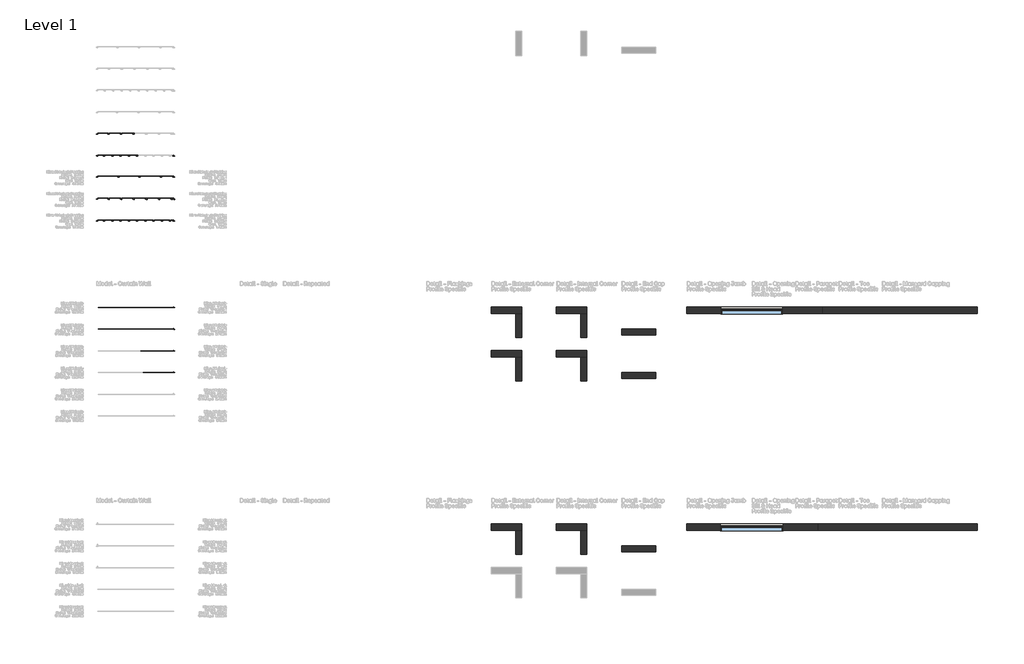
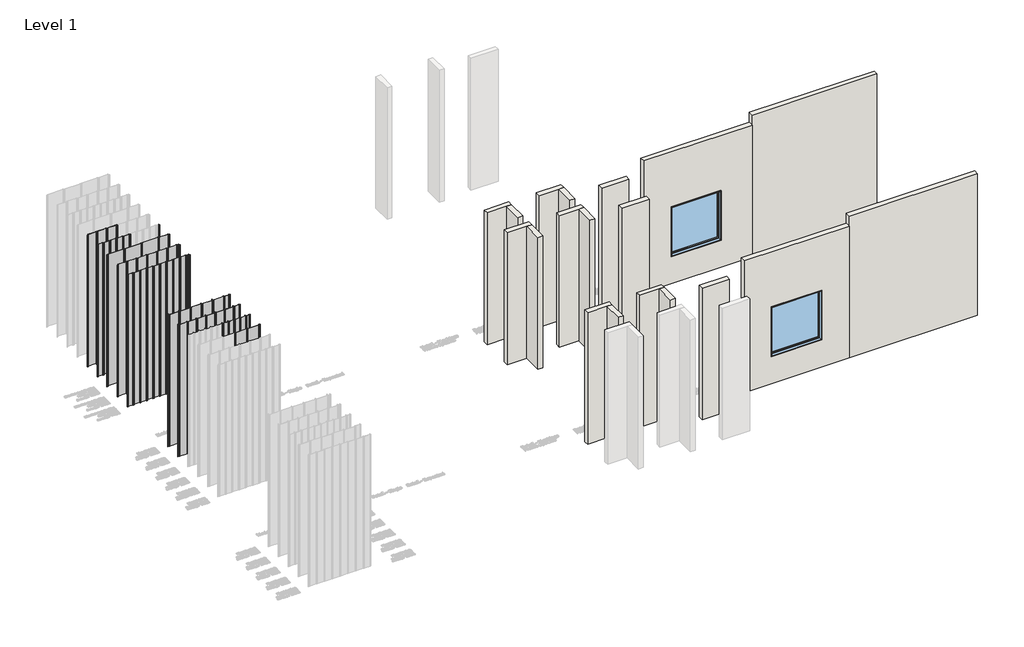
# One storey, part 2 of 64: 60 members, 49 plates, 19 walls, 2 windows.
"""IFC4 building model written with IfcOpenShell, lengths in millimetres."""

from ifc_helpers import new_model, si_unit, frame, origin, origin_with_axes, place, context, project, spatial, polyline, outline, extrude, faceted_brep, transform, mapped, element, save
from components import rectangular_mullion_1e4a568e, rectangular_mullion_1fceed1b, rectangular_mullion_15a9ede3, rectangular_mullion_3a94c3c1, rectangular_mullion_80ef18e3, rectangular_mullion_6b2adc9d, rectangular_mullion_0b61018c, system_panel_13f24f5d, system_panel_f94834bd, system_panel_f6456e46, system_panel_5c20f522, system_panel_9c6cef96, system_panel_82cc9cf0, system_panel_a97800d8, system_panel_c4768e52, system_panel_fcbe450f, system_panel_b35336ca, system_panel_c2a29967, system_panel_6cd964a3, system_panel_60fa6abd, system_panel_c1fad650, system_panel_f792b1a7, system_panel_48c66af6, system_panel_be85d933, fixed_1l_aus_1515_89e3e0c6, fixed_1l_aus_1516_2310d1c3

model = new_model("IFC4")

# Units and contexts
model_context = context("Model", 3, world=origin())
ifc_project = project(units=[si_unit("LENGTHUNIT", "METRE", prefix="MILLI")], contexts=[model_context])

# Site, building, storey
site = spatial("IfcSite", under=ifc_project)
building = spatial("IfcBuilding", under=site)
storey = spatial("IfcBuildingStorey", under=building, Name="Level 1", Elevation=0.0)

# Members
placement = place(None, origin())
rectangular_mullion_shape = rectangular_mullion_1e4a568e(model_context)
element("IfcMember", 1, ObjectType="Rectangular Mullion : Stratco_Hiland_Tray Nailstrip_25mm Rib_Intermediate", at=placement, inside=storey, context=model_context, shape_type="MappedRepresentation", body=[
    mapped(rectangular_mullion_shape, transform((1068.06804, -3510.2964283, 0.0), x_axis=(1.0, 0.0, 0.0), y_axis=(0.0, -1.0, 0.0), z_axis=(0.0, 0.0, -1.0))),
])
element("IfcMember", 2, ObjectType="Rectangular Mullion : Stratco_Hiland_Tray Nailstrip_25mm Rib_Intermediate", at=placement, inside=storey, context=model_context, shape_type="MappedRepresentation", body=[
    mapped(rectangular_mullion_shape, transform((1418.06804, -3510.2964283, 0.0), x_axis=(1.0, 0.0, 0.0), y_axis=(0.0, -1.0, 0.0), z_axis=(0.0, 0.0, -1.0))),
])
element("IfcMember", 3, ObjectType="Rectangular Mullion : Stratco_Hiland_Tray Nailstrip_25mm Rib_Intermediate", at=placement, inside=storey, context=model_context, shape_type="MappedRepresentation", body=[
    mapped(rectangular_mullion_shape, transform((1768.06804, -3510.2964283, 0.0), x_axis=(1.0, 0.0, 0.0), y_axis=(0.0, -1.0, 0.0), z_axis=(0.0, 0.0, -1.0))),
])
rectangular_mullion_2_shape = rectangular_mullion_1fceed1b(model_context)
element("IfcMember", 4, ObjectType="Rectangular Mullion : Stratco_Hiland_Tray Nailstrip_25mm Rib_Underlap Tray", at=placement, inside=storey, context=model_context, shape_type="MappedRepresentation", body=[
    mapped(rectangular_mullion_2_shape, transform((1800.0, -3510.2964283, 0.0), x_axis=(1.0, 0.0, 0.0), y_axis=(0.0, -1.0, 0.0), z_axis=(0.0, 0.0, -1.0))),
])
rectangular_mullion_3_shape = rectangular_mullion_15a9ede3(model_context)
element("IfcMember", 5, ObjectType="Rectangular Mullion : Stratco_Hiland_Tray Nailstrip_38mm Rib_Intermediate", at=placement, inside=storey, context=model_context, shape_type="MappedRepresentation", body=[
    mapped(rectangular_mullion_3_shape, transform((1008.06804, -3010.2964283, 0.0), x_axis=(1.0, 0.0, 0.0), y_axis=(0.0, -1.0, 0.0), z_axis=(0.0, 0.0, -1.0))),
])
element("IfcMember", 6, ObjectType="Rectangular Mullion : Stratco_Hiland_Tray Nailstrip_38mm Rib_Intermediate", at=placement, inside=storey, context=model_context, shape_type="MappedRepresentation", body=[
    mapped(rectangular_mullion_3_shape, transform((1173.06804, -3010.2964283, 0.0), x_axis=(1.0, 0.0, 0.0), y_axis=(0.0, -1.0, 0.0), z_axis=(0.0, 0.0, -1.0))),
])
element("IfcMember", 7, ObjectType="Rectangular Mullion : Stratco_Hiland_Tray Nailstrip_38mm Rib_Intermediate", at=placement, inside=storey, context=model_context, shape_type="MappedRepresentation", body=[
    mapped(rectangular_mullion_3_shape, transform((1338.06804, -3010.2964283, 0.0), x_axis=(1.0, 0.0, 0.0), y_axis=(0.0, -1.0, 0.0), z_axis=(0.0, 0.0, -1.0))),
])
element("IfcMember", 8, ObjectType="Rectangular Mullion : Stratco_Hiland_Tray Nailstrip_38mm Rib_Intermediate", at=placement, inside=storey, context=model_context, shape_type="MappedRepresentation", body=[
    mapped(rectangular_mullion_3_shape, transform((1503.06804, -3010.2964283, 0.0), x_axis=(1.0, 0.0, 0.0), y_axis=(0.0, -1.0, 0.0), z_axis=(0.0, 0.0, -1.0))),
])
element("IfcMember", 9, ObjectType="Rectangular Mullion : Stratco_Hiland_Tray Nailstrip_38mm Rib_Intermediate", at=placement, inside=storey, context=model_context, shape_type="MappedRepresentation", body=[
    mapped(rectangular_mullion_3_shape, transform((283.06804, -2510.2964283, 0.0), x_axis=(1.0, 0.0, 0.0), y_axis=(0.0, -1.0, 0.0), z_axis=(0.0, 0.0, -1.0))),
])
element("IfcMember", 10, ObjectType="Rectangular Mullion : Stratco_Hiland_Tray Nailstrip_38mm Rib_Intermediate", at=placement, inside=storey, context=model_context, shape_type="MappedRepresentation", body=[
    mapped(rectangular_mullion_3_shape, transform((548.06804, -2510.2964283, 0.0), x_axis=(1.0, 0.0, 0.0), y_axis=(0.0, -1.0, 0.0), z_axis=(0.0, 0.0, -1.0))),
])
element("IfcMember", 11, ObjectType="Rectangular Mullion : Stratco_Hiland_Tray Nailstrip_38mm Rib_Intermediate", at=placement, inside=storey, context=model_context, shape_type="MappedRepresentation", body=[
    mapped(rectangular_mullion_3_shape, transform((813.06804, -2510.2964283, 0.0), x_axis=(1.0, 0.0, 0.0), y_axis=(0.0, -1.0, 0.0), z_axis=(0.0, 0.0, -1.0))),
])
element("IfcMember", 12, ObjectType="Rectangular Mullion : Stratco_Hiland_Tray Nailstrip_38mm Rib_Intermediate", at=placement, inside=storey, context=model_context, shape_type="MappedRepresentation", body=[
    mapped(rectangular_mullion_3_shape, transform((1078.06804, -2510.2964283, 0.0), x_axis=(1.0, 0.0, 0.0), y_axis=(0.0, -1.0, 0.0), z_axis=(0.0, 0.0, -1.0))),
])
element("IfcMember", 13, ObjectType="Rectangular Mullion : Stratco_Hiland_Tray Nailstrip_38mm Rib_Intermediate", at=placement, inside=storey, context=model_context, shape_type="MappedRepresentation", body=[
    mapped(rectangular_mullion_3_shape, transform((1343.06804, -2510.2964283, 0.0), x_axis=(1.0, 0.0, 0.0), y_axis=(0.0, -1.0, 0.0), z_axis=(0.0, 0.0, -1.0))),
])
element("IfcMember", 14, ObjectType="Rectangular Mullion : Stratco_Hiland_Tray Nailstrip_38mm Rib_Intermediate", at=placement, inside=storey, context=model_context, shape_type="MappedRepresentation", body=[
    mapped(rectangular_mullion_3_shape, transform((1608.06804, -2510.2964283, 0.0), x_axis=(1.0, 0.0, 0.0), y_axis=(0.0, -1.0, 0.0), z_axis=(0.0, 0.0, -1.0))),
])
element("IfcMember", 15, ObjectType="Rectangular Mullion : Stratco_Hiland_Tray Nailstrip_38mm Rib_Intermediate", at=placement, inside=storey, context=model_context, shape_type="MappedRepresentation", body=[
    mapped(rectangular_mullion_3_shape, transform((338.06804, -2010.2964283, 0.0), x_axis=(1.0, 0.0, 0.0), y_axis=(0.0, -1.0, 0.0), z_axis=(0.0, 0.0, -1.0))),
])
element("IfcMember", 16, ObjectType="Rectangular Mullion : Stratco_Hiland_Tray Nailstrip_38mm Rib_Intermediate", at=placement, inside=storey, context=model_context, shape_type="MappedRepresentation", body=[
    mapped(rectangular_mullion_3_shape, transform((658.06804, -2010.2964283, 0.0), x_axis=(1.0, 0.0, 0.0), y_axis=(0.0, -1.0, 0.0), z_axis=(0.0, 0.0, -1.0))),
])
element("IfcMember", 17, ObjectType="Rectangular Mullion : Stratco_Hiland_Tray Nailstrip_38mm Rib_Intermediate", at=placement, inside=storey, context=model_context, shape_type="MappedRepresentation", body=[
    mapped(rectangular_mullion_3_shape, transform((978.06804, -2010.2964283, 0.0), x_axis=(1.0, 0.0, 0.0), y_axis=(0.0, -1.0, 0.0), z_axis=(0.0, 0.0, -1.0))),
])
element("IfcMember", 18, ObjectType="Rectangular Mullion : Stratco_Hiland_Tray Nailstrip_38mm Rib_Intermediate", at=placement, inside=storey, context=model_context, shape_type="MappedRepresentation", body=[
    mapped(rectangular_mullion_3_shape, transform((1298.06804, -2010.2964283, 0.0), x_axis=(1.0, 0.0, 0.0), y_axis=(0.0, -1.0, 0.0), z_axis=(0.0, 0.0, -1.0))),
])
element("IfcMember", 19, ObjectType="Rectangular Mullion : Stratco_Hiland_Tray Nailstrip_38mm Rib_Intermediate", at=placement, inside=storey, context=model_context, shape_type="MappedRepresentation", body=[
    mapped(rectangular_mullion_3_shape, transform((1618.06804, -2010.2964283, 0.0), x_axis=(1.0, 0.0, 0.0), y_axis=(0.0, -1.0, 0.0), z_axis=(0.0, 0.0, -1.0))),
])
element("IfcMember", 20, ObjectType="Rectangular Mullion : Stratco_Hiland_Tray Nailstrip_38mm Rib_Intermediate", at=placement, inside=storey, context=model_context, shape_type="MappedRepresentation", body=[
    mapped(rectangular_mullion_3_shape, transform((1668.06804, -3010.2964283, 0.0), x_axis=(1.0, 0.0, 0.0), y_axis=(0.0, -1.0, 0.0), z_axis=(0.0, 0.0, -1.0))),
])
element("IfcMember", 21, ObjectType="Rectangular Mullion : Stratco_Hiland_Tray Nailstrip_38mm Rib_Underlap Tray", at=placement, inside=storey, context=model_context, shape_type="MappedRepresentation", body=[
    mapped(rectangular_mullion_2_shape, transform((1800.0, -3010.2964283, 0.0), x_axis=(1.0, 0.0, 0.0), y_axis=(0.0, -1.0, 0.0), z_axis=(0.0, 0.0, -1.0))),
])
element("IfcMember", 22, ObjectType="Rectangular Mullion : Stratco_Hiland_Tray Nailstrip_38mm Rib_Underlap Tray", at=placement, inside=storey, context=model_context, shape_type="MappedRepresentation", body=[
    mapped(rectangular_mullion_2_shape, transform((1800.0, -2510.2964283, 0.0), x_axis=(1.0, 0.0, 0.0), y_axis=(0.0, -1.0, 0.0), z_axis=(0.0, 0.0, -1.0))),
])
element("IfcMember", 23, ObjectType="Rectangular Mullion : Stratco_Hiland_Tray Nailstrip_38mm Rib_Underlap Tray", at=placement, inside=storey, context=model_context, shape_type="MappedRepresentation", body=[
    mapped(rectangular_mullion_2_shape, transform((1800.0, -2010.2964283, 0.0), x_axis=(1.0, 0.0, 0.0), y_axis=(0.0, -1.0, 0.0), z_axis=(0.0, 0.0, -1.0))),
])
rectangular_mullion_4_shape = rectangular_mullion_3a94c3c1(model_context)
element("IfcMember", 24, ObjectType="Rectangular Mullion : Stratco_Hiland_Tray Nailstrip_38mm Rib_Underlap Tray Starter", at=placement, inside=storey, context=model_context, shape_type="MappedRepresentation", body=[
    mapped(rectangular_mullion_4_shape, transform((0.0, -2510.2964283, 4000.0), x_axis=(-1.0, 0.0, 0.0), y_axis=(0.0, -1.0, 0.0), z_axis=(0.0, 0.0, 1.0))),
])
element("IfcMember", 25, ObjectType="Rectangular Mullion : Stratco_Hiland_Tray Nailstrip_38mm Rib_Underlap Tray Starter", at=placement, inside=storey, context=model_context, shape_type="MappedRepresentation", body=[
    mapped(rectangular_mullion_4_shape, transform((0.0, -2010.2964283, 4000.0), x_axis=(-1.0, 0.0, 0.0), y_axis=(0.0, -1.0, 0.0), z_axis=(0.0, 0.0, 1.0))),
])
rectangular_mullion_5_shape = rectangular_mullion_80ef18e3(model_context)
element("IfcMember", 26, ObjectType="Rectangular Mullion : Stratco_Hiland_Interlock_Exposed Fix_Intermediate", at=placement, inside=storey, context=model_context, shape_type="MappedRepresentation", body=[
    mapped(rectangular_mullion_5_shape, transform((190.0000003, -13.7285711, 0.0), x_axis=(1.0, 0.0, 0.0), y_axis=(0.0, -1.0, 0.0), z_axis=(0.0, 0.0, -1.0))),
])
element("IfcMember", 27, ObjectType="Rectangular Mullion : Stratco_Hiland_Interlock_Exposed Fix_Intermediate", at=placement, inside=storey, context=model_context, shape_type="MappedRepresentation", body=[
    mapped(rectangular_mullion_5_shape, transform((380.0000003, -13.7285711, 0.0), x_axis=(1.0, 0.0, 0.0), y_axis=(0.0, -1.0, 0.0), z_axis=(0.0, 0.0, -1.0))),
])
element("IfcMember", 28, ObjectType="Rectangular Mullion : Stratco_Hiland_Interlock_Exposed Fix_Intermediate", at=placement, inside=storey, context=model_context, shape_type="MappedRepresentation", body=[
    mapped(rectangular_mullion_5_shape, transform((570.0000003, -13.7285711, 0.0), x_axis=(1.0, 0.0, 0.0), y_axis=(0.0, -1.0, 0.0), z_axis=(0.0, 0.0, -1.0))),
])
element("IfcMember", 29, ObjectType="Rectangular Mullion : Stratco_Hiland_Interlock_Exposed Fix_Intermediate", at=placement, inside=storey, context=model_context, shape_type="MappedRepresentation", body=[
    mapped(rectangular_mullion_5_shape, transform((760.0000003, -13.7285711, 0.0), x_axis=(1.0, 0.0, 0.0), y_axis=(0.0, -1.0, 0.0), z_axis=(0.0, 0.0, -1.0))),
])
element("IfcMember", 30, ObjectType="Rectangular Mullion : Stratco_Hiland_Interlock_Exposed Fix_Intermediate", at=placement, inside=storey, context=model_context, shape_type="MappedRepresentation", body=[
    mapped(rectangular_mullion_5_shape, transform((950.0000003, -13.7285711, 0.0), x_axis=(1.0, 0.0, 0.0), y_axis=(0.0, -1.0, 0.0), z_axis=(0.0, 0.0, -1.0))),
])
element("IfcMember", 31, ObjectType="Rectangular Mullion : Stratco_Hiland_Interlock_Exposed Fix_Intermediate", at=placement, inside=storey, context=model_context, shape_type="MappedRepresentation", body=[
    mapped(rectangular_mullion_5_shape, transform((1140.0000003, -13.7285711, 0.0), x_axis=(1.0, 0.0, 0.0), y_axis=(0.0, -1.0, 0.0), z_axis=(0.0, 0.0, -1.0))),
])
element("IfcMember", 32, ObjectType="Rectangular Mullion : Stratco_Hiland_Interlock_Exposed Fix_Intermediate", at=placement, inside=storey, context=model_context, shape_type="MappedRepresentation", body=[
    mapped(rectangular_mullion_5_shape, transform((290.0000003, 486.2714289, 0.0), x_axis=(1.0, 0.0, 0.0), y_axis=(0.0, -1.0, 0.0), z_axis=(0.0, 0.0, -1.0))),
])
element("IfcMember", 33, ObjectType="Rectangular Mullion : Stratco_Hiland_Interlock_Exposed Fix_Intermediate", at=placement, inside=storey, context=model_context, shape_type="MappedRepresentation", body=[
    mapped(rectangular_mullion_5_shape, transform((580.0000003, 486.2714289, 0.0), x_axis=(1.0, 0.0, 0.0), y_axis=(0.0, -1.0, 0.0), z_axis=(0.0, 0.0, -1.0))),
])
element("IfcMember", 34, ObjectType="Rectangular Mullion : Stratco_Hiland_Interlock_Exposed Fix_Intermediate", at=placement, inside=storey, context=model_context, shape_type="MappedRepresentation", body=[
    mapped(rectangular_mullion_5_shape, transform((870.0000003, 486.2714289, 0.0), x_axis=(1.0, 0.0, 0.0), y_axis=(0.0, -1.0, 0.0), z_axis=(0.0, 0.0, -1.0))),
])
element("IfcMember", 35, ObjectType="Rectangular Mullion : Stratco_Hiland_Interlock_Exposed Fix_Intermediate", at=placement, inside=storey, context=model_context, shape_type="MappedRepresentation", body=[
    mapped(rectangular_mullion_5_shape, transform((1160.0000003, 486.2714289, 0.0), x_axis=(1.0, 0.0, 0.0), y_axis=(0.0, -1.0, 0.0), z_axis=(0.0, 0.0, -1.0))),
])
element("IfcMember", 36, ObjectType="Rectangular Mullion : Stratco_Hiland_Interlock_Exposed Fix_Intermediate", at=placement, inside=storey, context=model_context, shape_type="MappedRepresentation", body=[
    mapped(rectangular_mullion_5_shape, transform((1450.0000003, 486.2714289, 0.0), x_axis=(1.0, 0.0, 0.0), y_axis=(0.0, -1.0, 0.0), z_axis=(0.0, 0.0, -1.0))),
])
element("IfcMember", 37, ObjectType="Rectangular Mullion : Stratco_Hiland_Interlock_Exposed Fix_Intermediate", at=placement, inside=storey, context=model_context, shape_type="MappedRepresentation", body=[
    mapped(rectangular_mullion_5_shape, transform((1740.0000003, 486.2714289, 0.0), x_axis=(1.0, 0.0, 0.0), y_axis=(0.0, -1.0, 0.0), z_axis=(0.0, 0.0, -1.0))),
])
element("IfcMember", 38, ObjectType="Rectangular Mullion : Stratco_Hiland_Interlock_Exposed Fix_Intermediate", at=placement, inside=storey, context=model_context, shape_type="MappedRepresentation", body=[
    mapped(rectangular_mullion_5_shape, transform((519.0971977, 1000.0, 0.0), x_axis=(1.0, 0.0, 0.0), y_axis=(0.0, -1.0, 0.0), z_axis=(0.0, 0.0, -1.0))),
])
element("IfcMember", 39, ObjectType="Rectangular Mullion : Stratco_Hiland_Interlock_Exposed Fix_Intermediate", at=placement, inside=storey, context=model_context, shape_type="MappedRepresentation", body=[
    mapped(rectangular_mullion_5_shape, transform((1009.0971977, 1000.0, 0.0), x_axis=(1.0, 0.0, 0.0), y_axis=(0.0, -1.0, 0.0), z_axis=(0.0, 0.0, -1.0))),
])
element("IfcMember", 40, ObjectType="Rectangular Mullion : Stratco_Hiland_Interlock_Exposed Fix_Intermediate", at=placement, inside=storey, context=model_context, shape_type="MappedRepresentation", body=[
    mapped(rectangular_mullion_5_shape, transform((1499.0971977, 1000.0, 0.0), x_axis=(1.0, 0.0, 0.0), y_axis=(0.0, -1.0, 0.0), z_axis=(0.0, 0.0, -1.0))),
])
element("IfcMember", 41, ObjectType="Rectangular Mullion : Stratco_Hiland_Interlock_Exposed Fix_Intermediate", at=placement, inside=storey, context=model_context, shape_type="MappedRepresentation", body=[
    mapped(rectangular_mullion_5_shape, transform((1330.0000003, -13.7285711, 0.0), x_axis=(1.0, 0.0, 0.0), y_axis=(0.0, -1.0, 0.0), z_axis=(0.0, 0.0, -1.0))),
])
element("IfcMember", 42, ObjectType="Rectangular Mullion : Stratco_Hiland_Interlock_Exposed Fix_Intermediate", at=placement, inside=storey, context=model_context, shape_type="MappedRepresentation", body=[
    mapped(rectangular_mullion_5_shape, transform((1520.0000003, -13.7285711, 0.0), x_axis=(1.0, 0.0, 0.0), y_axis=(0.0, -1.0, 0.0), z_axis=(0.0, 0.0, -1.0))),
])
element("IfcMember", 43, ObjectType="Rectangular Mullion : Stratco_Hiland_Interlock_Exposed Fix_Intermediate", at=placement, inside=storey, context=model_context, shape_type="MappedRepresentation", body=[
    mapped(rectangular_mullion_5_shape, transform((1710.0000003, -13.7285711, 0.0), x_axis=(1.0, 0.0, 0.0), y_axis=(0.0, -1.0, 0.0), z_axis=(0.0, 0.0, -1.0))),
])
rectangular_mullion_6_shape = rectangular_mullion_6b2adc9d(model_context)
element("IfcMember", 44, ObjectType="Rectangular Mullion : Stratco_Hiland_Interlock_Exposed Fix_Female", at=placement, inside=storey, context=model_context, shape_type="MappedRepresentation", body=[
    mapped(rectangular_mullion_6_shape, transform((1800.0, -13.7285711, 0.0), x_axis=(1.0, 0.0, 0.0), y_axis=(0.0, -1.0, 0.0), z_axis=(0.0, 0.0, -1.0))),
])
element("IfcMember", 45, ObjectType="Rectangular Mullion : Stratco_Hiland_Interlock_Exposed Fix_Female", at=placement, inside=storey, context=model_context, shape_type="MappedRepresentation", body=[
    mapped(rectangular_mullion_6_shape, transform((1800.0, 486.2714289, 0.0), x_axis=(1.0, 0.0, 0.0), y_axis=(0.0, -1.0, 0.0), z_axis=(0.0, 0.0, -1.0))),
])
element("IfcMember", 46, ObjectType="Rectangular Mullion : Stratco_Hiland_Interlock_Exposed Fix_Female", at=placement, inside=storey, context=model_context, shape_type="MappedRepresentation", body=[
    mapped(rectangular_mullion_6_shape, transform((1800.0, 1000.0, 0.0), x_axis=(1.0, 0.0, 0.0), y_axis=(0.0, -1.0, 0.0), z_axis=(0.0, 0.0, -1.0))),
])
rectangular_mullion_7_shape = rectangular_mullion_0b61018c(model_context)
element("IfcMember", 47, ObjectType="Rectangular Mullion : Stratco_Hiland_Interlock_Exposed Fix_Male", at=placement, inside=storey, context=model_context, shape_type="MappedRepresentation", body=[
    mapped(rectangular_mullion_7_shape, transform((0.0, -13.7285711, 4000.0), x_axis=(-1.0, 0.0, 0.0), y_axis=(0.0, -1.0, 0.0), z_axis=(0.0, 0.0, 1.0))),
])
element("IfcMember", 48, ObjectType="Rectangular Mullion : Stratco_Hiland_Interlock_Exposed Fix_Male", at=placement, inside=storey, context=model_context, shape_type="MappedRepresentation", body=[
    mapped(rectangular_mullion_7_shape, transform((0.0, 486.2714289, 4000.0), x_axis=(-1.0, 0.0, 0.0), y_axis=(0.0, -1.0, 0.0), z_axis=(0.0, 0.0, 1.0))),
])
element("IfcMember", 49, ObjectType="Rectangular Mullion : Stratco_Hiland_Interlock_Exposed Fix_Male", at=placement, inside=storey, context=model_context, shape_type="MappedRepresentation", body=[
    mapped(rectangular_mullion_7_shape, transform((0.0, 1000.0, 4000.0), x_axis=(-1.0, 0.0, 0.0), y_axis=(0.0, -1.0, 0.0), z_axis=(0.0, 0.0, 1.0))),
])
element("IfcMember", 50, ObjectType="Rectangular Mullion : Stratco_Hiland_Interlock_Concealed Fix 15mm Gap_Intermediate", at=placement, inside=storey, context=model_context, shape_type="MappedRepresentation", body=[
    mapped(rectangular_mullion_5_shape, transform((190.0000003, 1486.2714289, 0.0), x_axis=(1.0, 0.0, 0.0), y_axis=(0.0, -1.0, 0.0), z_axis=(0.0, 0.0, -1.0))),
])
element("IfcMember", 51, ObjectType="Rectangular Mullion : Stratco_Hiland_Interlock_Concealed Fix 15mm Gap_Intermediate", at=placement, inside=storey, context=model_context, shape_type="MappedRepresentation", body=[
    mapped(rectangular_mullion_5_shape, transform((380.0000003, 1486.2714289, 0.0), x_axis=(1.0, 0.0, 0.0), y_axis=(0.0, -1.0, 0.0), z_axis=(0.0, 0.0, -1.0))),
])
element("IfcMember", 52, ObjectType="Rectangular Mullion : Stratco_Hiland_Interlock_Concealed Fix 15mm Gap_Intermediate", at=placement, inside=storey, context=model_context, shape_type="MappedRepresentation", body=[
    mapped(rectangular_mullion_5_shape, transform((570.0000003, 1486.2714289, 0.0), x_axis=(1.0, 0.0, 0.0), y_axis=(0.0, -1.0, 0.0), z_axis=(0.0, 0.0, -1.0))),
])
element("IfcMember", 53, ObjectType="Rectangular Mullion : Stratco_Hiland_Interlock_Concealed Fix 15mm Gap_Intermediate", at=placement, inside=storey, context=model_context, shape_type="MappedRepresentation", body=[
    mapped(rectangular_mullion_5_shape, transform((760.0000003, 1486.2714289, 0.0), x_axis=(1.0, 0.0, 0.0), y_axis=(0.0, -1.0, 0.0), z_axis=(0.0, 0.0, -1.0))),
])
element("IfcMember", 54, ObjectType="Rectangular Mullion : Stratco_Hiland_Interlock_Concealed Fix 15mm Gap_Intermediate", at=placement, inside=storey, context=model_context, shape_type="MappedRepresentation", body=[
    mapped(rectangular_mullion_5_shape, transform((950.0000003, 1486.2714289, 0.0), x_axis=(1.0, 0.0, 0.0), y_axis=(0.0, -1.0, 0.0), z_axis=(0.0, 0.0, -1.0))),
])
element("IfcMember", 55, ObjectType="Rectangular Mullion : Stratco_Hiland_Interlock_Concealed Fix 15mm Gap_Intermediate", at=placement, inside=storey, context=model_context, shape_type="MappedRepresentation", body=[
    mapped(rectangular_mullion_5_shape, transform((290.0000003, 1986.2714289, 0.0), x_axis=(1.0, 0.0, 0.0), y_axis=(0.0, -1.0, 0.0), z_axis=(0.0, 0.0, -1.0))),
])
element("IfcMember", 56, ObjectType="Rectangular Mullion : Stratco_Hiland_Interlock_Concealed Fix 15mm Gap_Intermediate", at=placement, inside=storey, context=model_context, shape_type="MappedRepresentation", body=[
    mapped(rectangular_mullion_5_shape, transform((580.0000003, 1986.2714289, 0.0), x_axis=(1.0, 0.0, 0.0), y_axis=(0.0, -1.0, 0.0), z_axis=(0.0, 0.0, -1.0))),
])
element("IfcMember", 57, ObjectType="Rectangular Mullion : Stratco_Hiland_Interlock_Concealed Fix 15mm Gap_Intermediate", at=placement, inside=storey, context=model_context, shape_type="MappedRepresentation", body=[
    mapped(rectangular_mullion_5_shape, transform((870.0000003, 1986.2714289, 0.0), x_axis=(1.0, 0.0, 0.0), y_axis=(0.0, -1.0, 0.0), z_axis=(0.0, 0.0, -1.0))),
])
element("IfcMember", 58, ObjectType="Rectangular Mullion : Stratco_Hiland_Interlock_Concealed Fix 15mm Gap_Female", at=placement, inside=storey, context=model_context, shape_type="MappedRepresentation", body=[
    mapped(rectangular_mullion_6_shape, transform((1800.0, 1486.2714289, 0.0), x_axis=(1.0, 0.0, 0.0), y_axis=(0.0, -1.0, 0.0), z_axis=(0.0, 0.0, -1.0))),
])
element("IfcMember", 59, ObjectType="Rectangular Mullion : Stratco_Hiland_Interlock_Concealed Fix 15mm Gap_Male", at=placement, inside=storey, context=model_context, shape_type="MappedRepresentation", body=[
    mapped(rectangular_mullion_7_shape, transform((0.0, 1486.2714289, 4000.0), x_axis=(-1.0, 0.0, 0.0), y_axis=(0.0, -1.0, 0.0), z_axis=(0.0, 0.0, 1.0))),
])
element("IfcMember", 60, ObjectType="Rectangular Mullion : Stratco_Hiland_Interlock_Concealed Fix 15mm Gap_Male", at=placement, inside=storey, context=model_context, shape_type="MappedRepresentation", body=[
    mapped(rectangular_mullion_7_shape, transform((0.0, 1986.2714289, 4000.0), x_axis=(-1.0, 0.0, 0.0), y_axis=(0.0, -1.0, 0.0), z_axis=(0.0, 0.0, 1.0))),
])

# Plates
system_panel_shape = system_panel_13f24f5d(model_context)
element("IfcPlate", 61, ObjectType="System Panel : Stratco_Hiland_Tray", at=placement, inside=storey, context=model_context, shape_type="MappedRepresentation", body=[
    mapped(system_panel_shape, transform((1246.06804, -3510.2964283, 0.0), x_axis=(1.0, 0.0, 0.0), y_axis=(0.0, 1.0, 0.0), z_axis=(0.0, 0.0, 1.0))),
])
element("IfcPlate", 62, ObjectType="System Panel : Stratco_Hiland_Tray", at=placement, inside=storey, context=model_context, shape_type="MappedRepresentation", body=[
    mapped(system_panel_shape, transform((1596.06804, -3510.2964283, 0.0), x_axis=(1.0, 0.0, 0.0), y_axis=(0.0, 1.0, 0.0), z_axis=(0.0, 0.0, 1.0))),
])
system_panel_2_shape = system_panel_f94834bd(model_context)
element("IfcPlate", 63, ObjectType="System Panel : Stratco_Hiland_Tray", at=placement, inside=storey, context=model_context, shape_type="MappedRepresentation", body=[
    mapped(system_panel_2_shape, transform((1093.56804, -3010.2964283, 0.0), x_axis=(1.0, 0.0, 0.0), y_axis=(0.0, 1.0, 0.0), z_axis=(0.0, 0.0, 1.0))),
])
element("IfcPlate", 64, ObjectType="System Panel : Stratco_Hiland_Tray", at=placement, inside=storey, context=model_context, shape_type="MappedRepresentation", body=[
    mapped(system_panel_2_shape, transform((1258.56804, -3010.2964283, 0.0), x_axis=(1.0, 0.0, 0.0), y_axis=(0.0, 1.0, 0.0), z_axis=(0.0, 0.0, 1.0))),
])
element("IfcPlate", 65, ObjectType="System Panel : Stratco_Hiland_Tray", at=placement, inside=storey, context=model_context, shape_type="MappedRepresentation", body=[
    mapped(system_panel_2_shape, transform((1423.56804, -3010.2964283, 0.0), x_axis=(1.0, 0.0, 0.0), y_axis=(0.0, 1.0, 0.0), z_axis=(0.0, 0.0, 1.0))),
])
element("IfcPlate", 66, ObjectType="System Panel : Stratco_Hiland_Tray", at=placement, inside=storey, context=model_context, shape_type="MappedRepresentation", body=[
    mapped(system_panel_2_shape, transform((1588.56804, -3010.2964283, 0.0), x_axis=(1.0, 0.0, 0.0), y_axis=(0.0, 1.0, 0.0), z_axis=(0.0, 0.0, 1.0))),
])
system_panel_3_shape = system_panel_f6456e46(model_context)
element("IfcPlate", 67, ObjectType="System Panel : Stratco_Hiland_Interlock_Panel", at=placement, inside=storey, context=model_context, shape_type="MappedRepresentation", body=[
    mapped(system_panel_3_shape, transform((1639.0485989, 1000.0, 0.0), x_axis=(1.0, 0.0, 0.0), y_axis=(0.0, 1.0, 0.0), z_axis=(0.0, 0.0, 1.0))),
])
system_panel_4_shape = system_panel_5c20f522(model_context)
element("IfcPlate", 68, ObjectType="System Panel : Stratco_Hiland_Tray", at=placement, inside=storey, context=model_context, shape_type="MappedRepresentation", body=[
    mapped(system_panel_4_shape, transform((418.56804, -2510.2964283, 0.0), x_axis=(1.0, 0.0, 0.0), y_axis=(0.0, 1.0, 0.0), z_axis=(0.0, 0.0, 1.0))),
])
element("IfcPlate", 69, ObjectType="System Panel : Stratco_Hiland_Tray", at=placement, inside=storey, context=model_context, shape_type="MappedRepresentation", body=[
    mapped(system_panel_4_shape, transform((683.56804, -2510.2964283, 0.0), x_axis=(1.0, 0.0, 0.0), y_axis=(0.0, 1.0, 0.0), z_axis=(0.0, 0.0, 1.0))),
])
element("IfcPlate", 70, ObjectType="System Panel : Stratco_Hiland_Tray", at=placement, inside=storey, context=model_context, shape_type="MappedRepresentation", body=[
    mapped(system_panel_4_shape, transform((948.56804, -2510.2964283, 0.0), x_axis=(1.0, 0.0, 0.0), y_axis=(0.0, 1.0, 0.0), z_axis=(0.0, 0.0, 1.0))),
])
element("IfcPlate", 71, ObjectType="System Panel : Stratco_Hiland_Tray", at=placement, inside=storey, context=model_context, shape_type="MappedRepresentation", body=[
    mapped(system_panel_4_shape, transform((1213.56804, -2510.2964283, 0.0), x_axis=(1.0, 0.0, 0.0), y_axis=(0.0, 1.0, 0.0), z_axis=(0.0, 0.0, 1.0))),
])
element("IfcPlate", 72, ObjectType="System Panel : Stratco_Hiland_Tray", at=placement, inside=storey, context=model_context, shape_type="MappedRepresentation", body=[
    mapped(system_panel_4_shape, transform((1478.56804, -2510.2964283, 0.0), x_axis=(1.0, 0.0, 0.0), y_axis=(0.0, 1.0, 0.0), z_axis=(0.0, 0.0, 1.0))),
])
system_panel_5_shape = system_panel_9c6cef96(model_context)
element("IfcPlate", 73, ObjectType="System Panel : Stratco_Hiland_Tray", at=placement, inside=storey, context=model_context, shape_type="MappedRepresentation", body=[
    mapped(system_panel_5_shape, transform((501.06804, -2010.2964283, 0.0), x_axis=(1.0, 0.0, 0.0), y_axis=(0.0, 1.0, 0.0), z_axis=(0.0, 0.0, 1.0))),
])
element("IfcPlate", 74, ObjectType="System Panel : Stratco_Hiland_Tray", at=placement, inside=storey, context=model_context, shape_type="MappedRepresentation", body=[
    mapped(system_panel_5_shape, transform((821.06804, -2010.2964283, 0.0), x_axis=(1.0, 0.0, 0.0), y_axis=(0.0, 1.0, 0.0), z_axis=(0.0, 0.0, 1.0))),
])
element("IfcPlate", 75, ObjectType="System Panel : Stratco_Hiland_Tray", at=placement, inside=storey, context=model_context, shape_type="MappedRepresentation", body=[
    mapped(system_panel_5_shape, transform((1141.06804, -2010.2964283, 0.0), x_axis=(1.0, 0.0, 0.0), y_axis=(0.0, 1.0, 0.0), z_axis=(0.0, 0.0, 1.0))),
])
element("IfcPlate", 76, ObjectType="System Panel : Stratco_Hiland_Tray", at=placement, inside=storey, context=model_context, shape_type="MappedRepresentation", body=[
    mapped(system_panel_5_shape, transform((1461.06804, -2010.2964283, 0.0), x_axis=(1.0, 0.0, 0.0), y_axis=(0.0, 1.0, 0.0), z_axis=(0.0, 0.0, 1.0))),
])
system_panel_6_shape = system_panel_82cc9cf0(model_context)
element("IfcPlate", 77, ObjectType="System Panel : Stratco_Hiland_Interlock_Panel", at=placement, inside=storey, context=model_context, shape_type="MappedRepresentation", body=[
    mapped(system_panel_6_shape, transform((152.0485989, 486.2714289, 0.0), x_axis=(1.0, 0.0, 0.0), y_axis=(0.0, 1.0, 0.0), z_axis=(0.0, 0.0, 1.0))),
])
element("IfcPlate", 78, ObjectType="System Panel : Stratco_Hiland_Interlock_Panel", at=placement, inside=storey, context=model_context, shape_type="MappedRepresentation", body=[
    mapped(system_panel_6_shape, transform((152.0485989, 1986.2714289, 0.0), x_axis=(1.0, 0.0, 0.0), y_axis=(0.0, 1.0, 0.0), z_axis=(0.0, 0.0, 1.0))),
])
system_panel_7_shape = system_panel_a97800d8(model_context)
element("IfcPlate", 79, ObjectType="System Panel : Stratco_Hiland_Interlock_Panel", at=placement, inside=storey, context=model_context, shape_type="MappedRepresentation", body=[
    mapped(system_panel_7_shape, transform((1759.5000002, 486.2714289, 0.0), x_axis=(1.0, 0.0, 0.0), y_axis=(0.0, 1.0, 0.0), z_axis=(0.0, 0.0, 1.0))),
])
system_panel_8_shape = system_panel_c4768e52(model_context)
element("IfcPlate", 80, ObjectType="System Panel : Stratco_Hiland_Interlock_Panel", at=placement, inside=storey, context=model_context, shape_type="MappedRepresentation", body=[
    mapped(system_panel_8_shape, transform((1744.5000002, -13.7285711, 0.0), x_axis=(1.0, 0.0, 0.0), y_axis=(0.0, 1.0, 0.0), z_axis=(0.0, 0.0, 1.0))),
])
system_panel_9_shape = system_panel_fcbe450f(model_context)
element("IfcPlate", 81, ObjectType="System Panel : Stratco_Hiland_Tray", at=placement, inside=storey, context=model_context, shape_type="MappedRepresentation", body=[
    mapped(system_panel_9_shape, transform((161.6980623, -2510.2964283, 0.0), x_axis=(1.0, 0.0, 0.0), y_axis=(0.0, 1.0, 0.0), z_axis=(0.0, 0.0, 1.0))),
])
system_panel_10_shape = system_panel_b35336ca(model_context)
element("IfcPlate", 82, ObjectType="System Panel : Stratco_Hiland_Tray", at=placement, inside=storey, context=model_context, shape_type="MappedRepresentation", body=[
    mapped(system_panel_10_shape, transform((1694.2514418, -2510.2964283, 0.0), x_axis=(1.0, 0.0, 0.0), y_axis=(0.0, 1.0, 0.0), z_axis=(0.0, 0.0, 1.0))),
])
system_panel_11_shape = system_panel_c2a29967(model_context)
element("IfcPlate", 83, ObjectType="System Panel : Stratco_Hiland_Tray", at=placement, inside=storey, context=model_context, shape_type="MappedRepresentation", body=[
    mapped(system_panel_11_shape, transform((189.1980623, -2010.2964283, 0.0), x_axis=(1.0, 0.0, 0.0), y_axis=(0.0, 1.0, 0.0), z_axis=(0.0, 0.0, 1.0))),
])
system_panel_12_shape = system_panel_6cd964a3(model_context)
element("IfcPlate", 84, ObjectType="System Panel : Stratco_Hiland_Tray", at=placement, inside=storey, context=model_context, shape_type="MappedRepresentation", body=[
    mapped(system_panel_12_shape, transform((1699.2514418, -2010.2964283, 0.0), x_axis=(1.0, 0.0, 0.0), y_axis=(0.0, 1.0, 0.0), z_axis=(0.0, 0.0, 1.0))),
])
system_panel_13_shape = system_panel_60fa6abd(model_context)
element("IfcPlate", 85, ObjectType="System Panel : Stratco_Hiland_Tray", at=placement, inside=storey, context=model_context, shape_type="MappedRepresentation", body=[
    mapped(system_panel_13_shape, transform((1724.2514418, -3010.2964283, 0.0), x_axis=(1.0, 0.0, 0.0), y_axis=(0.0, 1.0, 0.0), z_axis=(0.0, 0.0, 1.0))),
])
system_panel_14_shape = system_panel_c1fad650(model_context)
element("IfcPlate", 86, ObjectType="System Panel : Stratco_Hiland_Interlock_Panel", at=placement, inside=storey, context=model_context, shape_type="MappedRepresentation", body=[
    mapped(system_panel_14_shape, transform((277.5000003, -13.7285711, 0.0), x_axis=(1.0, 0.0, 0.0), y_axis=(0.0, 1.0, 0.0), z_axis=(0.0, 0.0, 1.0))),
])
element("IfcPlate", 87, ObjectType="System Panel : Stratco_Hiland_Interlock_Panel", at=placement, inside=storey, context=model_context, shape_type="MappedRepresentation", body=[
    mapped(system_panel_14_shape, transform((467.5000003, -13.7285711, 0.0), x_axis=(1.0, 0.0, 0.0), y_axis=(0.0, 1.0, 0.0), z_axis=(0.0, 0.0, 1.0))),
])
element("IfcPlate", 88, ObjectType="System Panel : Stratco_Hiland_Interlock_Panel", at=placement, inside=storey, context=model_context, shape_type="MappedRepresentation", body=[
    mapped(system_panel_14_shape, transform((657.5000003, -13.7285711, 0.0), x_axis=(1.0, 0.0, 0.0), y_axis=(0.0, 1.0, 0.0), z_axis=(0.0, 0.0, 1.0))),
])
element("IfcPlate", 89, ObjectType="System Panel : Stratco_Hiland_Interlock_Panel", at=placement, inside=storey, context=model_context, shape_type="MappedRepresentation", body=[
    mapped(system_panel_14_shape, transform((847.5000003, -13.7285711, 0.0), x_axis=(1.0, 0.0, 0.0), y_axis=(0.0, 1.0, 0.0), z_axis=(0.0, 0.0, 1.0))),
])
element("IfcPlate", 90, ObjectType="System Panel : Stratco_Hiland_Interlock_Panel", at=placement, inside=storey, context=model_context, shape_type="MappedRepresentation", body=[
    mapped(system_panel_14_shape, transform((1037.5000003, -13.7285711, 0.0), x_axis=(1.0, 0.0, 0.0), y_axis=(0.0, 1.0, 0.0), z_axis=(0.0, 0.0, 1.0))),
])
element("IfcPlate", 91, ObjectType="System Panel : Stratco_Hiland_Interlock_Panel", at=placement, inside=storey, context=model_context, shape_type="MappedRepresentation", body=[
    mapped(system_panel_14_shape, transform((1227.5000003, -13.7285711, 0.0), x_axis=(1.0, 0.0, 0.0), y_axis=(0.0, 1.0, 0.0), z_axis=(0.0, 0.0, 1.0))),
])
element("IfcPlate", 92, ObjectType="System Panel : Stratco_Hiland_Interlock_Panel", at=placement, inside=storey, context=model_context, shape_type="MappedRepresentation", body=[
    mapped(system_panel_14_shape, transform((277.5000003, 1486.2714289, 0.0), x_axis=(1.0, 0.0, 0.0), y_axis=(0.0, 1.0, 0.0), z_axis=(0.0, 0.0, 1.0))),
])
element("IfcPlate", 93, ObjectType="System Panel : Stratco_Hiland_Interlock_Panel", at=placement, inside=storey, context=model_context, shape_type="MappedRepresentation", body=[
    mapped(system_panel_14_shape, transform((467.5000003, 1486.2714289, 0.0), x_axis=(1.0, 0.0, 0.0), y_axis=(0.0, 1.0, 0.0), z_axis=(0.0, 0.0, 1.0))),
])
element("IfcPlate", 94, ObjectType="System Panel : Stratco_Hiland_Interlock_Panel", at=placement, inside=storey, context=model_context, shape_type="MappedRepresentation", body=[
    mapped(system_panel_14_shape, transform((657.5000003, 1486.2714289, 0.0), x_axis=(1.0, 0.0, 0.0), y_axis=(0.0, 1.0, 0.0), z_axis=(0.0, 0.0, 1.0))),
])
element("IfcPlate", 95, ObjectType="System Panel : Stratco_Hiland_Interlock_Panel", at=placement, inside=storey, context=model_context, shape_type="MappedRepresentation", body=[
    mapped(system_panel_14_shape, transform((847.5000003, 1486.2714289, 0.0), x_axis=(1.0, 0.0, 0.0), y_axis=(0.0, 1.0, 0.0), z_axis=(0.0, 0.0, 1.0))),
])
element("IfcPlate", 96, ObjectType="System Panel : Stratco_Hiland_Interlock_Panel", at=placement, inside=storey, context=model_context, shape_type="MappedRepresentation", body=[
    mapped(system_panel_14_shape, transform((1417.5000003, -13.7285711, 0.0), x_axis=(1.0, 0.0, 0.0), y_axis=(0.0, 1.0, 0.0), z_axis=(0.0, 0.0, 1.0))),
])
element("IfcPlate", 97, ObjectType="System Panel : Stratco_Hiland_Interlock_Panel", at=placement, inside=storey, context=model_context, shape_type="MappedRepresentation", body=[
    mapped(system_panel_14_shape, transform((1607.5000003, -13.7285711, 0.0), x_axis=(1.0, 0.0, 0.0), y_axis=(0.0, 1.0, 0.0), z_axis=(0.0, 0.0, 1.0))),
])
system_panel_15_shape = system_panel_f792b1a7(model_context)
element("IfcPlate", 98, ObjectType="System Panel : Stratco_Hiland_Interlock_Panel", at=placement, inside=storey, context=model_context, shape_type="MappedRepresentation", body=[
    mapped(system_panel_15_shape, transform((427.5000003, 486.2714289, 0.0), x_axis=(1.0, 0.0, 0.0), y_axis=(0.0, 1.0, 0.0), z_axis=(0.0, 0.0, 1.0))),
])
element("IfcPlate", 99, ObjectType="System Panel : Stratco_Hiland_Interlock_Panel", at=placement, inside=storey, context=model_context, shape_type="MappedRepresentation", body=[
    mapped(system_panel_15_shape, transform((717.5000003, 486.2714289, 0.0), x_axis=(1.0, 0.0, 0.0), y_axis=(0.0, 1.0, 0.0), z_axis=(0.0, 0.0, 1.0))),
])
element("IfcPlate", 100, ObjectType="System Panel : Stratco_Hiland_Interlock_Panel", at=placement, inside=storey, context=model_context, shape_type="MappedRepresentation", body=[
    mapped(system_panel_15_shape, transform((1007.5000003, 486.2714289, 0.0), x_axis=(1.0, 0.0, 0.0), y_axis=(0.0, 1.0, 0.0), z_axis=(0.0, 0.0, 1.0))),
])
element("IfcPlate", 101, ObjectType="System Panel : Stratco_Hiland_Interlock_Panel", at=placement, inside=storey, context=model_context, shape_type="MappedRepresentation", body=[
    mapped(system_panel_15_shape, transform((1297.5000003, 486.2714289, 0.0), x_axis=(1.0, 0.0, 0.0), y_axis=(0.0, 1.0, 0.0), z_axis=(0.0, 0.0, 1.0))),
])
element("IfcPlate", 102, ObjectType="System Panel : Stratco_Hiland_Interlock_Panel", at=placement, inside=storey, context=model_context, shape_type="MappedRepresentation", body=[
    mapped(system_panel_15_shape, transform((1587.5000003, 486.2714289, 0.0), x_axis=(1.0, 0.0, 0.0), y_axis=(0.0, 1.0, 0.0), z_axis=(0.0, 0.0, 1.0))),
])
element("IfcPlate", 103, ObjectType="System Panel : Stratco_Hiland_Interlock_Panel", at=placement, inside=storey, context=model_context, shape_type="MappedRepresentation", body=[
    mapped(system_panel_15_shape, transform((427.5000003, 1986.2714289, 0.0), x_axis=(1.0, 0.0, 0.0), y_axis=(0.0, 1.0, 0.0), z_axis=(0.0, 0.0, 1.0))),
])
element("IfcPlate", 104, ObjectType="System Panel : Stratco_Hiland_Interlock_Panel", at=placement, inside=storey, context=model_context, shape_type="MappedRepresentation", body=[
    mapped(system_panel_15_shape, transform((717.5000003, 1986.2714289, 0.0), x_axis=(1.0, 0.0, 0.0), y_axis=(0.0, 1.0, 0.0), z_axis=(0.0, 0.0, 1.0))),
])
system_panel_16_shape = system_panel_48c66af6(model_context)
element("IfcPlate", 105, ObjectType="System Panel : Stratco_Hiland_Interlock_Panel", at=placement, inside=storey, context=model_context, shape_type="MappedRepresentation", body=[
    mapped(system_panel_16_shape, transform((266.5971976, 1000.0, 0.0), x_axis=(1.0, 0.0, 0.0), y_axis=(0.0, 1.0, 0.0), z_axis=(0.0, 0.0, 1.0))),
])
element("IfcPlate", 106, ObjectType="System Panel : Stratco_Hiland_Interlock_Panel", at=placement, inside=storey, context=model_context, shape_type="MappedRepresentation", body=[
    mapped(system_panel_16_shape, transform((756.5971977, 1000.0, 0.0), x_axis=(1.0, 0.0, 0.0), y_axis=(0.0, 1.0, 0.0), z_axis=(0.0, 0.0, 1.0))),
])
element("IfcPlate", 107, ObjectType="System Panel : Stratco_Hiland_Interlock_Panel", at=placement, inside=storey, context=model_context, shape_type="MappedRepresentation", body=[
    mapped(system_panel_16_shape, transform((1246.5971977, 1000.0, 0.0), x_axis=(1.0, 0.0, 0.0), y_axis=(0.0, 1.0, 0.0), z_axis=(0.0, 0.0, 1.0))),
])
system_panel_17_shape = system_panel_be85d933(model_context)
element("IfcPlate", 108, ObjectType="System Panel : Stratco_Hiland_Interlock_Panel", at=placement, inside=storey, context=model_context, shape_type="MappedRepresentation", body=[
    mapped(system_panel_17_shape, transform((102.0485989, -13.7285711, 0.0), x_axis=(1.0, 0.0, 0.0), y_axis=(0.0, 1.0, 0.0), z_axis=(0.0, 0.0, 1.0))),
])
element("IfcPlate", 109, ObjectType="System Panel : Stratco_Hiland_Interlock_Panel", at=placement, inside=storey, context=model_context, shape_type="MappedRepresentation", body=[
    mapped(system_panel_17_shape, transform((102.0485989, 1486.2714289, 0.0), x_axis=(1.0, 0.0, 0.0), y_axis=(0.0, 1.0, 0.0), z_axis=(0.0, 0.0, 1.0))),
])

# Walls
element("IfcWall", 110, ObjectType="Exterior - Cladding, Batten, Membrane/ Thermal Break, Stud, Lining", at=placement, inside=storey, context=model_context, shape_type="Brep", body=[
    faceted_brep([(9100.0, -2142.0, 0.0), (9658.0, -2142.0, 0.0), (9800.0, -2142.0, 0.0), (9800.0, -2142.0, 4000.0), (9658.0, -2142.0, 4000.0), (9100.0, -2142.0, 4000.0), (9100.0, -2000.0, 0.0), (9100.0, -2000.0, 4000.0), (9800.0, -2000.0, 4000.0), (9800.0, -2000.0, 0.0)], [[[0, 1, 2, 3, 4, 5]], [[6, 7, 8, 9]], [[2, 1, 0, 6, 9]], [[5, 4, 3, 8, 7]], [[0, 5, 7, 6]], [[3, 2, 9, 8]]]),
])
element("IfcWall", 111, ObjectType="Exterior - Cladding, Batten, Membrane/ Thermal Break, Stud, Lining", at=placement, inside=storey, context=model_context, shape_type="SweptSolid", body=[
    extrude(outline(polyline([(9800.0, -2142.0), (9800.0, -2700.0), (9658.0, -2700.0), (9658.0, -2142.0), (9800.0, -2142.0)])), origin_with_axes(), (0.0, 0.0, 1.0), 4000.0),
])
element("IfcWall", 112, ObjectType="Exterior - Cladding, Batten, Membrane/ Thermal Break, Stud, Lining", at=placement, inside=storey, context=model_context, shape_type="Brep", body=[
    faceted_brep([(9100.0, -3142.0, 0.0), (9658.0, -3142.0, 0.0), (9800.0, -3142.0, 0.0), (9800.0, -3142.0, 4000.0), (9658.0, -3142.0, 4000.0), (9100.0, -3142.0, 4000.0), (9100.0, -3000.0, 0.0), (9100.0, -3000.0, 4000.0), (9800.0, -3000.0, 4000.0), (9800.0, -3000.0, 0.0)], [[[0, 1, 2, 3, 4, 5]], [[6, 7, 8, 9]], [[2, 1, 0, 6, 9]], [[5, 4, 3, 8, 7]], [[0, 5, 7, 6]], [[3, 2, 9, 8]]]),
])
element("IfcWall", 113, ObjectType="Exterior - Cladding, Batten, Membrane/ Thermal Break, Stud, Lining", at=placement, inside=storey, context=model_context, shape_type="SweptSolid", body=[
    extrude(outline(polyline([(9800.0, -3142.0), (9800.0, -3700.0), (9658.0, -3700.0), (9658.0, -3142.0), (9800.0, -3142.0)])), origin_with_axes(), (0.0, 0.0, 1.0), 4000.0),
])
element("IfcWall", 114, ObjectType="Exterior - Cladding, Batten, Membrane/ Thermal Break, Stud, Lining", at=placement, inside=storey, context=model_context, shape_type="Brep", body=[
    faceted_brep([(10600.0, -2142.0, 0.0), (11158.0, -2142.0, 0.0), (11300.0, -2142.0, 0.0), (11300.0, -2142.0, 4000.0), (11158.0, -2142.0, 4000.0), (10600.0, -2142.0, 4000.0), (10600.0, -2000.0, 0.0), (10600.0, -2000.0, 4000.0), (11300.0, -2000.0, 4000.0), (11300.0, -2000.0, 0.0)], [[[0, 1, 2, 3, 4, 5]], [[6, 7, 8, 9]], [[2, 1, 0, 6, 9]], [[5, 4, 3, 8, 7]], [[0, 5, 7, 6]], [[3, 2, 9, 8]]]),
])
element("IfcWall", 115, ObjectType="Exterior - Cladding, Batten, Membrane/ Thermal Break, Stud, Lining", at=placement, inside=storey, context=model_context, shape_type="SweptSolid", body=[
    extrude(outline(polyline([(11300.0, -2142.0), (11300.0, -2700.0), (11158.0, -2700.0), (11158.0, -2142.0), (11300.0, -2142.0)])), origin_with_axes(), (0.0, 0.0, 1.0), 4000.0),
])
element("IfcWall", 116, ObjectType="Exterior - Cladding, Batten, Membrane/ Thermal Break, Stud, Lining", at=placement, inside=storey, context=model_context, shape_type="Brep", body=[
    faceted_brep([(10600.0, -3142.0, 0.0), (11158.0, -3142.0, 0.0), (11300.0, -3142.0, 0.0), (11300.0, -3142.0, 4000.0), (11158.0, -3142.0, 4000.0), (10600.0, -3142.0, 4000.0), (10600.0, -3000.0, 0.0), (10600.0, -3000.0, 4000.0), (11300.0, -3000.0, 4000.0), (11300.0, -3000.0, 0.0)], [[[0, 1, 2, 3, 4, 5]], [[6, 7, 8, 9]], [[2, 1, 0, 6, 9]], [[5, 4, 3, 8, 7]], [[0, 5, 7, 6]], [[3, 2, 9, 8]]]),
])
element("IfcWall", 117, ObjectType="Exterior - Cladding, Batten, Membrane/ Thermal Break, Stud, Lining", at=placement, inside=storey, context=model_context, shape_type="SweptSolid", body=[
    extrude(outline(polyline([(11300.0, -3142.0), (11300.0, -3700.0), (11158.0, -3700.0), (11158.0, -3142.0), (11300.0, -3142.0)])), origin_with_axes(), (0.0, 0.0, 1.0), 4000.0),
])
element("IfcWall", 118, ObjectType="Exterior - Cladding, Batten, Membrane/ Thermal Break, Stud, Lining", at=placement, inside=storey, context=model_context, shape_type="Brep", body=[
    faceted_brep([(9100.0, -7142.0, 0.0), (9658.0, -7142.0, 0.0), (9800.0, -7142.0, 0.0), (9800.0, -7142.0, 4000.0), (9658.0, -7142.0, 4000.0), (9100.0, -7142.0, 4000.0), (9100.0, -7000.0, 0.0), (9100.0, -7000.0, 4000.0), (9800.0, -7000.0, 4000.0), (9800.0, -7000.0, 0.0)], [[[0, 1, 2, 3, 4, 5]], [[6, 7, 8, 9]], [[2, 1, 0, 6, 9]], [[5, 4, 3, 8, 7]], [[0, 5, 7, 6]], [[3, 2, 9, 8]]]),
])
element("IfcWall", 119, ObjectType="Exterior - Cladding, Batten, Membrane/ Thermal Break, Stud, Lining", at=placement, inside=storey, context=model_context, shape_type="SweptSolid", body=[
    extrude(outline(polyline([(9800.0, -7142.0), (9800.0, -7700.0), (9658.0, -7700.0), (9658.0, -7142.0), (9800.0, -7142.0)])), origin_with_axes(), (0.0, 0.0, 1.0), 4000.0),
])
element("IfcWall", 120, ObjectType="Exterior - Cladding, Batten, Membrane/ Thermal Break, Stud, Lining", at=placement, inside=storey, context=model_context, shape_type="Brep", body=[
    faceted_brep([(10600.0, -7142.0, 0.0), (11158.0, -7142.0, 0.0), (11300.0, -7142.0, 0.0), (11300.0, -7142.0, 4000.0), (11158.0, -7142.0, 4000.0), (10600.0, -7142.0, 4000.0), (10600.0, -7000.0, 0.0), (10600.0, -7000.0, 4000.0), (11300.0, -7000.0, 4000.0), (11300.0, -7000.0, 0.0)], [[[0, 1, 2, 3, 4, 5]], [[6, 7, 8, 9]], [[2, 1, 0, 6, 9]], [[5, 4, 3, 8, 7]], [[0, 5, 7, 6]], [[3, 2, 9, 8]]]),
])
element("IfcWall", 121, ObjectType="Exterior - Cladding, Batten, Membrane/ Thermal Break, Stud, Lining", at=placement, inside=storey, context=model_context, shape_type="SweptSolid", body=[
    extrude(outline(polyline([(11300.0, -7142.0), (11300.0, -7700.0), (11158.0, -7700.0), (11158.0, -7142.0), (11300.0, -7142.0)])), origin_with_axes(), (0.0, 0.0, 1.0), 4000.0),
])
element("IfcWall", 122, ObjectType="Exterior - Cladding, Batten, Membrane/ Thermal Break, Stud, Lining", at=placement, inside=storey, context=model_context, shape_type="SweptSolid", body=[
    extrude(outline(polyline([(12887.8074912, -7642.0), (12100.0, -7642.0), (12100.0, -7500.0), (12887.8074912, -7500.0), (12887.8074912, -7642.0)])), origin_with_axes(), (0.0, 0.0, 1.0), 4000.0),
])
element("IfcWall", 123, ObjectType="Exterior - Cladding, Batten, Membrane/ Thermal Break, Stud, Lining", at=placement, inside=storey, context=model_context, shape_type="SweptSolid", body=[
    extrude(outline(polyline([(0.0, 13600.0), (0.0, 16620.0), (4000.0, 16620.0), (4000.0, 13600.0), (0.0, 13600.0)]), holes=[polyline([(830.0, 14375.0), (2330.0, 14375.0), (2330.0, 15825.0), (830.0, 15825.0), (830.0, 14375.0)])]), frame((0.0, -7142.0, 0.0), z_axis=(0.0, 1.0, 0.0), x_axis=(0.0, 0.0, 1.0)), (0.0, 0.0, 1.0), 142.0),
])
element("IfcWall", 124, ObjectType="Exterior - Cladding, Batten, Membrane/ Thermal Break, Stud, Lining", at=placement, inside=storey, context=model_context, shape_type="SweptSolid", body=[
    extrude(outline(polyline([(12887.8074912, -2642.0), (12100.0, -2642.0), (12100.0, -2500.0), (12887.8074912, -2500.0), (12887.8074912, -2642.0)])), origin_with_axes(), (0.0, 0.0, 1.0), 4000.0),
])
element("IfcWall", 125, ObjectType="Exterior - Cladding, Batten, Membrane/ Thermal Break, Stud, Lining", at=placement, inside=storey, context=model_context, shape_type="SweptSolid", body=[
    extrude(outline(polyline([(0.0, 13600.0), (0.0, 16720.0), (4000.0, 16720.0), (4000.0, 13600.0), (0.0, 13600.0)]), holes=[polyline([(830.0, 14385.0), (2330.0, 14385.0), (2330.0, 15815.0), (830.0, 15815.0), (830.0, 14385.0)])]), frame((0.0, -2142.0, 0.0), z_axis=(0.0, 1.0, 0.0), x_axis=(0.0, 0.0, 1.0)), (0.0, 0.0, 1.0), 142.0),
])
element("IfcWall", 126, ObjectType="Exterior - Cladding, Batten, Membrane/ Thermal Break, Stud, Lining", at=placement, inside=storey, context=model_context, shape_type="SweptSolid", body=[
    extrude(outline(polyline([(12887.8074912, -3642.0), (12100.0, -3642.0), (12100.0, -3500.0), (12887.8074912, -3500.0), (12887.8074912, -3642.0)])), origin_with_axes(), (0.0, 0.0, 1.0), 4000.0),
])
element("IfcWall", 127, ObjectType="Exterior - Cladding, Batten, Membrane/ Thermal Break, Stud, Lining", at=placement, inside=storey, context=model_context, shape_type="Brep", body=[
    faceted_brep([(16620.0, -7142.0, 0.0), (20300.0, -7142.0, 0.0), (20300.0, -7142.0, 4300.0), (16620.0, -7142.0, 4300.0), (16620.0, -7142.0, 4000.0), (16620.0, -7000.0, 0.0), (16620.0, -7000.0, 4000.0), (16620.0, -7000.0, 4300.0), (20300.0, -7000.0, 4300.0), (20300.0, -7000.0, 0.0)], [[[0, 1, 2, 3, 4]], [[5, 6, 7, 8, 9]], [[1, 0, 5, 9]], [[2, 1, 9, 8]], [[3, 2, 8, 7]], [[0, 4, 3, 7, 6, 5]]]),
])
element("IfcWall", 128, ObjectType="Exterior - Cladding, Batten, Membrane/ Thermal Break, Stud, Lining", at=placement, inside=storey, context=model_context, shape_type="Brep", body=[
    faceted_brep([(16720.0, -2142.0, 0.0), (20300.0, -2142.0, 0.0), (20300.0, -2142.0, 4300.0), (16720.0, -2142.0, 4300.0), (16720.0, -2142.0, 4000.0), (16720.0, -2000.0, 0.0), (16720.0, -2000.0, 4000.0), (16720.0, -2000.0, 4300.0), (20300.0, -2000.0, 4300.0), (20300.0, -2000.0, 0.0)], [[[0, 1, 2, 3, 4]], [[5, 6, 7, 8, 9]], [[1, 0, 5, 9]], [[2, 1, 9, 8]], [[3, 2, 8, 7]], [[0, 4, 3, 7, 6, 5]]]),
])

# Windows
fixed_1l_aus_1515_shape = fixed_1l_aus_1515_89e3e0c6(model_context)
element("IfcWindow", 129, ObjectType="Fixed - 1L (AUS) : 1515", at=placement, inside=storey, context=model_context, shape_type="MappedRepresentation", body=[
    mapped(fixed_1l_aus_1515_shape, transform((15426.173759, -2071.0, -70.0), x_axis=(-1.0, 0.0, 0.0), y_axis=(0.0, -1.0, 0.0), z_axis=(0.0, 0.0, 1.0))),
])
fixed_1l_aus_1516_shape = fixed_1l_aus_1516_2310d1c3(model_context)
element("IfcWindow", 130, ObjectType="Fixed - 1L (AUS) : 1516", at=placement, inside=storey, context=model_context, shape_type="MappedRepresentation", body=[
    mapped(fixed_1l_aus_1516_shape, transform((15426.173759, -7071.0, -70.0), x_axis=(-1.0, 0.0, 0.0), y_axis=(0.0, -1.0, 0.0), z_axis=(0.0, 0.0, 1.0))),
])

save(model, "model.ifc")
